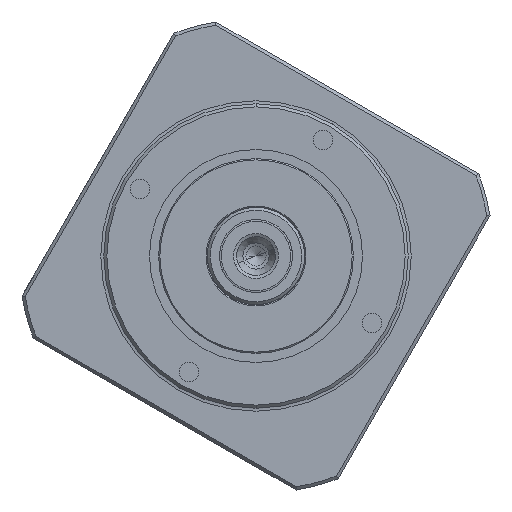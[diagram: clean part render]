
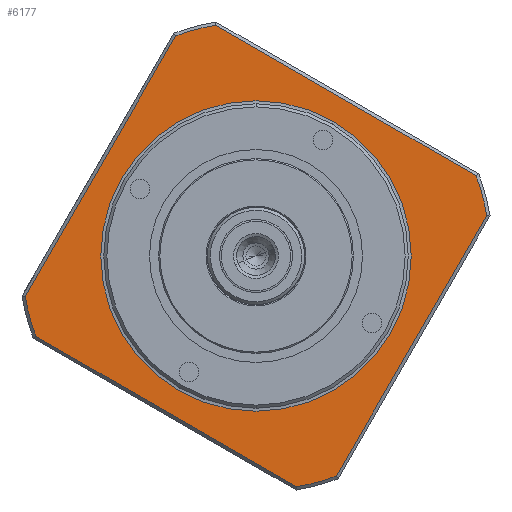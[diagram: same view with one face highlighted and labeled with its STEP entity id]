
A CAD part, left-side view. The second image highlights one B-rep face of the part: STEP entity #6177.
In plain terms, the highlighted planar face has unit normal (-1, 0, 0) as drawn and (0, 1, 0) by its records, which use the part's own axes.
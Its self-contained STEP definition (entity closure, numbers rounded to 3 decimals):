
#118 = DIRECTION ( 'NONE',  ( 0., 1., 0. ) ) ;
#218 = CARTESIAN_POINT ( 'NONE',  ( 24.739, 21.5, -29.5 ) ) ;
#330 = VERTEX_POINT ( 'NONE', #6638 ) ;
#360 = EDGE_CURVE ( 'NONE', #6567, #8587, #5892, .T. ) ;
#488 = CARTESIAN_POINT ( 'NONE',  ( 0., 21.5, 0. ) ) ;
#514 = ORIENTED_EDGE ( 'NONE', *, *, #7127, .T. ) ;
#700 = CARTESIAN_POINT ( 'NONE',  ( -24.739, 21.5, -29.5 ) ) ;
#811 = EDGE_CURVE ( 'NONE', #6818, #1860, #1831, .T. ) ;
#895 = AXIS2_PLACEMENT_3D ( 'NONE', #3903, #118, #5959 ) ;
#1285 = DIRECTION ( 'NONE',  ( 0., 1., 0. ) ) ;
#1295 = EDGE_CURVE ( 'NONE', #4353, #6567, #4846, .T. ) ;
#1401 = EDGE_CURVE ( 'NONE', #2257, #4353, #7505, .T. ) ;
#1509 = FACE_BOUND ( 'NONE', #6741, .T. ) ;
#1518 = AXIS2_PLACEMENT_3D ( 'NONE', #3097, #7408, #6800 ) ;
#1623 = CARTESIAN_POINT ( 'NONE',  ( -24.739, 21.5, 29.5 ) ) ;
#1636 = ORIENTED_EDGE ( 'NONE', *, *, #8942, .T. ) ;
#1646 = DIRECTION ( 'NONE',  ( 0., 0., 1. ) ) ;
#1740 = ORIENTED_EDGE ( 'NONE', *, *, #1767, .T. ) ;
#1767 = EDGE_CURVE ( 'NONE', #8587, #3825, #3685, .T. ) ;
#1831 = CIRCLE ( 'NONE', #895, 38.5 ) ;
#1860 = VERTEX_POINT ( 'NONE', #3420 ) ;
#1905 = CARTESIAN_POINT ( 'NONE',  ( 29.5, 21.5, -24.92 ) ) ;
#2013 = DIRECTION ( 'NONE',  ( 0., 0., 1. ) ) ;
#2089 = ORIENTED_EDGE ( 'NONE', *, *, #8322, .T. ) ;
#2176 = ORIENTED_EDGE ( 'NONE', *, *, #811, .T. ) ;
#2257 = VERTEX_POINT ( 'NONE', #218 ) ;
#2657 = DIRECTION ( 'NONE',  ( 1., 0., 0. ) ) ;
#2713 = CIRCLE ( 'NONE', #2857, 38.5 ) ;
#2857 = AXIS2_PLACEMENT_3D ( 'NONE', #9000, #3821, #1646 ) ;
#3041 = CARTESIAN_POINT ( 'NONE',  ( -24.92, 21.5, -29.5 ) ) ;
#3097 = CARTESIAN_POINT ( 'NONE',  ( 0., 21.5, 0. ) ) ;
#3150 = FACE_OUTER_BOUND ( 'NONE', #4136, .T. ) ;
#3197 = CIRCLE ( 'NONE', #9432, 25.5 ) ;
#3420 = CARTESIAN_POINT ( 'NONE',  ( 29.5, 21.5, 24.739 ) ) ;
#3607 = VERTEX_POINT ( 'NONE', #7912 ) ;
#3685 = CIRCLE ( 'NONE', #3839, 38.5 ) ;
#3747 = CARTESIAN_POINT ( 'NONE',  ( 24.739, 21.5, 29.5 ) ) ;
#3821 = DIRECTION ( 'NONE',  ( 0., 1., 0. ) ) ;
#3825 = VERTEX_POINT ( 'NONE', #1623 ) ;
#3839 = AXIS2_PLACEMENT_3D ( 'NONE', #7087, #6421, #2013 ) ;
#3903 = CARTESIAN_POINT ( 'NONE',  ( 0., 21.5, 0. ) ) ;
#4079 = ORIENTED_EDGE ( 'NONE', *, *, #5755, .T. ) ;
#4134 = AXIS2_PLACEMENT_3D ( 'NONE', #488, #5035, #9420 ) ;
#4136 = EDGE_LOOP ( 'NONE', ( #6913, #1740, #8661, #2176, #514, #1636, #5890, #8307 ) ) ;
#4302 = PLANE ( 'NONE',  #4134 ) ;
#4353 = VERTEX_POINT ( 'NONE', #700 ) ;
#4402 = VERTEX_POINT ( 'NONE', #5929 ) ;
#4495 = LINE ( 'NONE', #8597, #5761 ) ;
#4640 = DIRECTION ( 'NONE',  ( 0., 0., 1. ) ) ;
#4846 = CIRCLE ( 'NONE', #6054, 38.5 ) ;
#5035 = DIRECTION ( 'NONE',  ( 0., 1., 0. ) ) ;
#5514 = EDGE_CURVE ( 'NONE', #3825, #6818, #4495, .T. ) ;
#5613 = DIRECTION ( 'NONE',  ( 0., 0., -1. ) ) ;
#5654 = VECTOR ( 'NONE', #5613, 1000. ) ;
#5755 = EDGE_CURVE ( 'NONE', #330, #4402, #7254, .T. ) ;
#5761 = VECTOR ( 'NONE', #2657, 1000. ) ;
#5827 = CARTESIAN_POINT ( 'NONE',  ( -29.5, 21.5, 24.92 ) ) ;
#5890 = ORIENTED_EDGE ( 'NONE', *, *, #1401, .T. ) ;
#5892 = LINE ( 'NONE', #5827, #7278 ) ;
#5929 = CARTESIAN_POINT ( 'NONE',  ( 0., 21.5, 25.5 ) ) ;
#5959 = DIRECTION ( 'NONE',  ( 0., 0., 1. ) ) ;
#6054 = AXIS2_PLACEMENT_3D ( 'NONE', #6430, #1285, #6506 ) ;
#6116 = DIRECTION ( 'NONE',  ( 0., -1., 0. ) ) ;
#6177 = ADVANCED_FACE ( 'NONE', ( #3150, #1509 ), #4302, .T. ) ;
#6421 = DIRECTION ( 'NONE',  ( 0., 1., 0. ) ) ;
#6430 = CARTESIAN_POINT ( 'NONE',  ( 0., 21.5, 0. ) ) ;
#6506 = DIRECTION ( 'NONE',  ( 0., 0., 1. ) ) ;
#6567 = VERTEX_POINT ( 'NONE', #8609 ) ;
#6638 = CARTESIAN_POINT ( 'NONE',  ( 0., 21.5, -25.5 ) ) ;
#6645 = CARTESIAN_POINT ( 'NONE',  ( 0., 21.5, 0. ) ) ;
#6741 = EDGE_LOOP ( 'NONE', ( #2089, #4079 ) ) ;
#6800 = DIRECTION ( 'NONE',  ( 0., 0., 1. ) ) ;
#6818 = VERTEX_POINT ( 'NONE', #3747 ) ;
#6913 = ORIENTED_EDGE ( 'NONE', *, *, #360, .T. ) ;
#7087 = CARTESIAN_POINT ( 'NONE',  ( 0., 21.5, 0. ) ) ;
#7127 = EDGE_CURVE ( 'NONE', #1860, #3607, #7135, .T. ) ;
#7135 = LINE ( 'NONE', #1905, #5654 ) ;
#7254 = CIRCLE ( 'NONE', #1518, 25.5 ) ;
#7278 = VECTOR ( 'NONE', #9582, 1000. ) ;
#7408 = DIRECTION ( 'NONE',  ( 0., -1., 0. ) ) ;
#7473 = DIRECTION ( 'NONE',  ( -1., 0., 0. ) ) ;
#7505 = LINE ( 'NONE', #3041, #7742 ) ;
#7742 = VECTOR ( 'NONE', #7473, 1000. ) ;
#7912 = CARTESIAN_POINT ( 'NONE',  ( 29.5, 21.5, -24.739 ) ) ;
#8307 = ORIENTED_EDGE ( 'NONE', *, *, #1295, .T. ) ;
#8322 = EDGE_CURVE ( 'NONE', #4402, #330, #3197, .T. ) ;
#8587 = VERTEX_POINT ( 'NONE', #9474 ) ;
#8597 = CARTESIAN_POINT ( 'NONE',  ( 24.92, 21.5, 29.5 ) ) ;
#8609 = CARTESIAN_POINT ( 'NONE',  ( -29.5, 21.5, -24.739 ) ) ;
#8661 = ORIENTED_EDGE ( 'NONE', *, *, #5514, .T. ) ;
#8942 = EDGE_CURVE ( 'NONE', #3607, #2257, #2713, .T. ) ;
#9000 = CARTESIAN_POINT ( 'NONE',  ( 0., 21.5, 0. ) ) ;
#9420 = DIRECTION ( 'NONE',  ( 0., 0., 1. ) ) ;
#9432 = AXIS2_PLACEMENT_3D ( 'NONE', #6645, #6116, #4640 ) ;
#9474 = CARTESIAN_POINT ( 'NONE',  ( -29.5, 21.5, 24.739 ) ) ;
#9582 = DIRECTION ( 'NONE',  ( 0., 0., 1. ) ) ;
